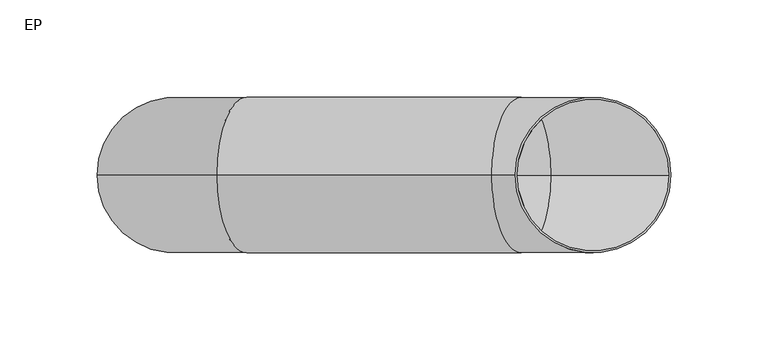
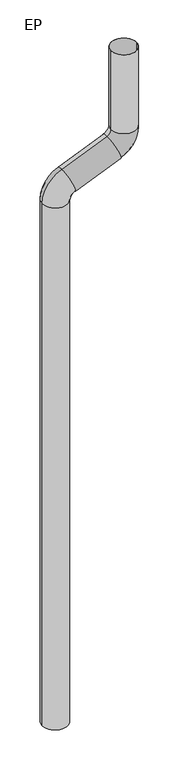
"""IFC4 building model written with IfcOpenShell, lengths in millimetres: flow terminal geometry, Descente Eau pluviale : EP."""

from ifc_helpers import new_model, si_unit, point, frame, origin, place, context, project, spatial, polyline, circle_curve, ellipse_curve, trimmed, source, transform, mapped, element, save
from ifc_brep_helpers import plane_surface, cylinder_surface, revolved_surface, advanced_brep


def ep_99f4eaf0(model_context):
    return source(origin(), model_context, "Body", "AdvancedBrep", [
        advanced_brep(
        [(40.0, -300.0, 871000.0), (-40.0, -300.0, 871000.0), (39.0, -300.0, 871000.0), (-39.0, -300.0, 871000.0), (40.0, -300.0, 872720.0714678), (-40.0, -300.0, 872720.0714678), (39.0, -300.0, 872720.0714678), (-39.0, -300.0, 872720.0714678), (21.3861912, -300.0, 872812.3155666), (52.2772382, -300.0, 872738.5202876), (21.7723293, -300.0, 872811.3931256), (51.8911001, -300.0, 872739.4427285), (193.6138088, -300.0, 872797.6844334), (162.7227618, -300.0, 872871.4797124), (193.2276707, -300.0, 872798.6068744), (163.1088999, -300.0, 872870.5572715), (175.0, -300.0, 872889.9285322), (255.0, -300.0, 872889.9285322), (176.0, -300.0, 872889.9285322), (254.0, -300.0, 872889.9285322), (255.0, -300.0, 873150.0), (175.0, -300.0, 873150.0), (254.0, -300.0, 873150.0), (176.0, -300.0, 873150.0)],
        [
            (0, 1, circle_curve(frame((0.0, -300.0, 871000.0), z_axis=(0.0, 0.0, -1.0), x_axis=(-1.0, 0.0, 0.0)), 40.0)),
            (1, 0, circle_curve(frame((0.0, -300.0, 871000.0), z_axis=(0.0, 0.0, -1.0), x_axis=(-1.0, 0.0, 0.0)), 40.0)),
            (2, 3, circle_curve(frame((0.0, -300.0, 871000.0), z_axis=(0.0, 0.0, 1.0), x_axis=(-1.0, 0.0, 0.0)), 39.0)),
            (3, 2, circle_curve(frame((0.0, -300.0, 871000.0), z_axis=(0.0, 0.0, 1.0), x_axis=(-1.0, 0.0, 0.0)), 39.0)),
            (0, 4),
            (4, 5, circle_curve(frame((0.0, -300.0, 872720.0714678), z_axis=(0.0, 0.0, -1.0), x_axis=(-1.0, 0.0, 0.0)), 40.0)),
            (5, 1),
            (5, 4, circle_curve(frame((0.0, -300.0, 872720.0714678), z_axis=(0.0, 0.0, -1.0), x_axis=(-1.0, 0.0, 0.0)), 40.0)),
            (2, 6),
            (6, 7, circle_curve(frame((0.0, -300.0, 872720.0714678), z_axis=(0.0, 0.0, 1.0), x_axis=(-1.0, 0.0, 0.0)), 39.0)),
            (7, 3),
            (7, 6, circle_curve(frame((0.0, -300.0, 872720.0714678), z_axis=(0.0, 0.0, 1.0), x_axis=(-1.0, 0.0, 0.0)), 39.0)),
            (8, 5, circle_curve(frame((60.0, -300.0, 872720.0714678), z_axis=(0.0, -1.0, 0.0), x_axis=(-1.0, 0.0, 0.0)), 100.0)),
            (4, 9, circle_curve(frame((60.0, -300.0, 872720.0714678), z_axis=(0.0, 1.0, 0.0), x_axis=(-1.0, 0.0, 0.0)), 20.0)),
            (9, 8, circle_curve(frame((36.8317147, -300.0, 872775.4179271), z_axis=(-0.9224409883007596, 0.0, -0.3861380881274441), x_axis=(-0.3861380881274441, 0.0, 0.9224409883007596)), 40.0)),
            (8, 9, circle_curve(frame((36.8317147, -300.0, 872775.4179271), z_axis=(-0.9224409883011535, 0.0, -0.3861380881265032), x_axis=(-0.3861380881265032, 0.0, 0.9224409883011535)), 40.0)),
            (10, 7, circle_curve(frame((60.0, -300.0, 872720.0714678), z_axis=(0.0, -1.0, 0.0), x_axis=(-1.0, 0.0, 0.0)), 99.0)),
            (6, 11, circle_curve(frame((60.0, -300.0, 872720.0714678), z_axis=(0.0, 1.0, 0.0), x_axis=(-1.0, 0.0, 0.0)), 21.0)),
            (11, 10, circle_curve(frame((36.8317147, -300.0, 872775.4179271), z_axis=(0.9224409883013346, 0.0, 0.3861380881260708), x_axis=(-0.3861380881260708, 0.0, 0.9224409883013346)), 39.0)),
            (10, 11, circle_curve(frame((36.8317147, -300.0, 872775.4179271), z_axis=(0.9224409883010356, 0.0, 0.386138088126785), x_axis=(-0.386138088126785, 0.0, 0.9224409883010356)), 39.0)),
            (9, 12),
            (12, 13, circle_curve(frame((178.1682853, -300.0, 872834.5820729), z_axis=(-0.9224409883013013, 0.0, -0.3861380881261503), x_axis=(-0.3861380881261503, 0.0, 0.9224409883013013)), 40.0)),
            (13, 8),
            (13, 12, circle_curve(frame((178.1682853, -300.0, 872834.5820729), z_axis=(-0.9224409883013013, 0.0, -0.3861380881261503), x_axis=(-0.3861380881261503, 0.0, 0.9224409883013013)), 40.0)),
            (11, 14),
            (14, 15, circle_curve(frame((178.1682853, -300.0, 872834.5820729), z_axis=(0.9224409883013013, 0.0, 0.3861380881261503), x_axis=(-0.3861380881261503, 0.0, 0.9224409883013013)), 39.0)),
            (15, 10),
            (15, 14, circle_curve(frame((178.1682853, -300.0, 872834.5820729), z_axis=(0.9224409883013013, 0.0, 0.3861380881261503), x_axis=(-0.3861380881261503, 0.0, 0.9224409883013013)), 39.0)),
            (16, 13, circle_curve(frame((155.0, -300.0, 872889.9285322), z_axis=(0.0, 1.0, 0.0), x_axis=(0.3861380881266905, 0.0, -0.9224409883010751)), 20.0)),
            (12, 17, circle_curve(frame((155.0, -300.0, 872889.9285322), z_axis=(0.0, -1.0, 0.0), x_axis=(0.3861380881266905, 0.0, -0.9224409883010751)), 100.0)),
            (17, 16, circle_curve(frame((215.0, -300.0, 872889.9285322), z_axis=(0.0, 0.0, -1.0), x_axis=(-1.0, 0.0, 0.0)), 40.0)),
            (16, 17, circle_curve(frame((215.0, -300.0, 872889.9285322), z_axis=(0.0, 0.0, -1.0), x_axis=(-1.0, 0.0, 0.0)), 40.0)),
            (18, 15, circle_curve(frame((155.0, -300.0, 872889.9285322), z_axis=(0.0, 1.0, 0.0), x_axis=(0.3861380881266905, 0.0, -0.9224409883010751)), 21.0)),
            (14, 19, circle_curve(frame((155.0, -300.0, 872889.9285322), z_axis=(0.0, -1.0, 0.0), x_axis=(0.3861380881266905, 0.0, -0.9224409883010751)), 99.0)),
            (19, 18, circle_curve(frame((215.0, -300.0, 872889.9285322), z_axis=(0.0, 0.0, 1.0), x_axis=(-1.0, 0.0, 0.0)), 39.0)),
            (18, 19, circle_curve(frame((215.0, -300.0, 872889.9285322), z_axis=(0.0, 0.0, 1.0), x_axis=(-1.0, 0.0, 0.0)), 39.0)),
            (20, 21, circle_curve(frame((215.0, -300.0, 873150.0), z_axis=(0.0, 0.0, 1.0), x_axis=(-1.0, 0.0, 0.0)), 40.0)),
            (21, 20, circle_curve(frame((215.0, -300.0, 873150.0), z_axis=(0.0, 0.0, 1.0), x_axis=(-1.0, 0.0, 0.0)), 40.0)),
            (22, 23, circle_curve(frame((215.0, -300.0, 873150.0), z_axis=(0.0, 0.0, -1.0), x_axis=(-1.0, 0.0, 0.0)), 39.0)),
            (23, 22, circle_curve(frame((215.0, -300.0, 873150.0), z_axis=(0.0, 0.0, -1.0), x_axis=(-1.0, 0.0, 0.0)), 39.0)),
            (17, 20),
            (21, 16),
            (19, 22),
            (23, 18),
        ],
        [
            plane_surface(frame((0.0, -300.0, 871000.0), z_axis=(0.0, 0.0, -1.0), x_axis=(0.0, -1.0, 0.0))),
            cylinder_surface(frame((0.0, -300.0, 871000.0), z_axis=(0.0, 0.0, -1.0), x_axis=(-1.0, 0.0, 0.0)), 40.0),
            revolved_surface(polyline([(-39.0, -300.0, 872720.0714678), (-39.0, -300.0, 871000.0)]), (0.0, -300.0, 871000.0), (0.0, 0.0, 1.0)),
            revolved_surface(trimmed(ellipse_curve(frame((0.0, -300.0, 872720.0714678), z_axis=(0.0, 0.0, -1.0), x_axis=(-1.0, 0.0, 0.0)), 40.0, 40.0), [point((40.0, -300.0, 872720.0714678))], [point((-40.0, -300.0, 872720.0714678))], True, "CARTESIAN"), (60.0, -300.0, 872720.0714678), (0.0, 1.0, 0.0)),
            revolved_surface(trimmed(ellipse_curve(frame((0.0, -300.0, 872720.0714678), z_axis=(0.0, 0.0, -1.0), x_axis=(-1.0, 0.0, 0.0)), 40.0, 40.0), [point((-40.0, -300.0, 872720.0714678))], [point((40.0, -300.0, 872720.0714678))], True, "CARTESIAN"), (60.0, -300.0, 872720.0714678), (0.0, 1.0, 0.0)),
            revolved_surface(trimmed(ellipse_curve(frame((0.0, -300.0, 872720.0714678), z_axis=(0.0, 0.0, 1.0), x_axis=(-1.0, 0.0, 0.0)), 39.0, 39.0), [point((39.0, -300.0, 872720.0714678))], [point((-39.0, -300.0, 872720.0714678))], True, "CARTESIAN"), (60.0, -300.0, 872720.0714678), (0.0, 1.0, 0.0)),
            revolved_surface(trimmed(ellipse_curve(frame((0.0, -300.0, 872720.0714678), z_axis=(0.0, 0.0, 1.0), x_axis=(-1.0, 0.0, 0.0)), 39.0, 39.0), [point((-39.0, -300.0, 872720.0714678))], [point((39.0, -300.0, 872720.0714678))], True, "CARTESIAN"), (60.0, -300.0, 872720.0714678), (0.0, 1.0, 0.0)),
            cylinder_surface(frame((36.8317147, -300.0, 872775.4179271), z_axis=(-0.9224409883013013, 0.0, -0.3861380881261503), x_axis=(-0.3861380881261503, 0.0, 0.9224409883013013)), 40.0),
            revolved_surface(polyline([(163.10889990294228, -300.0, 872870.557271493), (21.772329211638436, -300.0, 872811.3931256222)]), (36.8317147, -300.0, 872775.4179271), (0.9224409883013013, 0.0, 0.3861380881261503)),
            revolved_surface(trimmed(ellipse_curve(frame((178.1682853, -300.0, 872834.5820729), z_axis=(-0.9224409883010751, 0.0, -0.3861380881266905), x_axis=(-0.3861380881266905, 0.0, 0.9224409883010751)), 40.0, 40.0), [point((193.6138088, -300.0, 872797.6844334))], [point((162.7227618, -300.0, 872871.4797124))], True, "CARTESIAN"), (155.0, -300.0, 872889.9285322), (0.0, -1.0, 0.0)),
            revolved_surface(trimmed(ellipse_curve(frame((178.1682853, -300.0, 872834.5820729), z_axis=(-0.9224409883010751, 0.0, -0.3861380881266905), x_axis=(-0.3861380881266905, 0.0, 0.9224409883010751)), 40.0, 40.0), [point((162.7227618, -300.0, 872871.4797124))], [point((193.6138088, -300.0, 872797.6844334))], True, "CARTESIAN"), (155.0, -300.0, 872889.9285322), (0.0, -1.0, 0.0)),
            revolved_surface(trimmed(ellipse_curve(frame((178.1682853, -300.0, 872834.5820729), z_axis=(0.9224409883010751, 0.0, 0.3861380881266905), x_axis=(-0.3861380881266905, 0.0, 0.9224409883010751)), 39.0, 39.0), [point((193.2276707, -300.0, 872798.6068744))], [point((163.1088999, -300.0, 872870.5572715))], True, "CARTESIAN"), (155.0, -300.0, 872889.9285322), (0.0, -1.0, 0.0)),
            revolved_surface(trimmed(ellipse_curve(frame((178.1682853, -300.0, 872834.5820729), z_axis=(0.9224409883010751, 0.0, 0.3861380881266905), x_axis=(-0.3861380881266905, 0.0, 0.9224409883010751)), 39.0, 39.0), [point((163.1088999, -300.0, 872870.5572715))], [point((193.2276707, -300.0, 872798.6068744))], True, "CARTESIAN"), (155.0, -300.0, 872889.9285322), (0.0, -1.0, 0.0)),
            plane_surface(frame((215.0, -300.0, 873150.0), z_axis=(0.0, 0.0, 1.0), x_axis=(0.0, -1.0, 0.0))),
            cylinder_surface(frame((215.0, -300.0, 872889.9285322), z_axis=(0.0, 0.0, -1.0), x_axis=(-1.0, 0.0, 0.0)), 40.0),
            revolved_surface(polyline([(176.0, -300.0, 873150.0), (176.0, -300.0, 872889.9285322)]), (215.0, -300.0, 872889.9285322), (0.0, 0.0, 1.0)),
        ],
        [
            (0, [[1, 2], [3, 4]]),
            (1, [[-1, 5, 6, 7]]),
            (1, [[-2, -7, 8, -5]]),
            (2, [[-3, 9, 10, 11]]),
            (2, [[-4, -11, 12, -9]]),
            (3, [[13, -6, 14, 15]]),
            (4, [[-14, -8, -13, 16]]),
            (5, [[17, -10, 18, 19]]),
            (6, [[-18, -12, -17, 20]]),
            (7, [[-15, 21, 22, 23]]),
            (7, [[-16, -23, 24, -21]]),
            (8, [[-19, 25, 26, 27]]),
            (8, [[-20, -27, 28, -25]]),
            (9, [[29, -22, 30, 31]]),
            (10, [[-30, -24, -29, 32]]),
            (11, [[33, -26, 34, 35]]),
            (12, [[-34, -28, -33, 36]]),
            (13, [[37, 38], [39, 40]]),
            (14, [[-31, 41, -38, 42]]),
            (14, [[-32, -42, -37, -41]]),
            (15, [[-35, 43, -40, 44]]),
            (15, [[-36, -44, -39, -43]]),
        ],
    ),
    ])


if __name__ == "__main__":
    model = new_model("IFC4")
    model_context = context("Model", 3, world=origin())
    ifc_project = project(units=[si_unit("LENGTHUNIT", "METRE", prefix="MILLI")], contexts=[model_context])
    site = spatial("IfcSite", under=ifc_project)
    building = spatial("IfcBuilding", under=site)
    placement = place(None, origin())
    ep_shape = ep_99f4eaf0(model_context)
    element("IfcFlowTerminal", 1, ObjectType="Descente Eau pluviale : EP", at=placement, inside=building, context=model_context, shape_type="MappedRepresentation", body=[
        mapped(ep_shape, transform((0.0, 0.0, 0.0), x_axis=(1.0, 0.0, 0.0), y_axis=(0.0, 1.0, 0.0), z_axis=(0.0, 0.0, 1.0))),
    ])
    save(model, "model.ifc")
